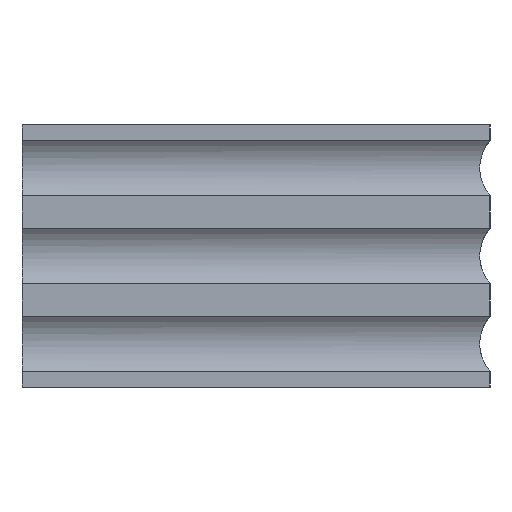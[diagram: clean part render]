
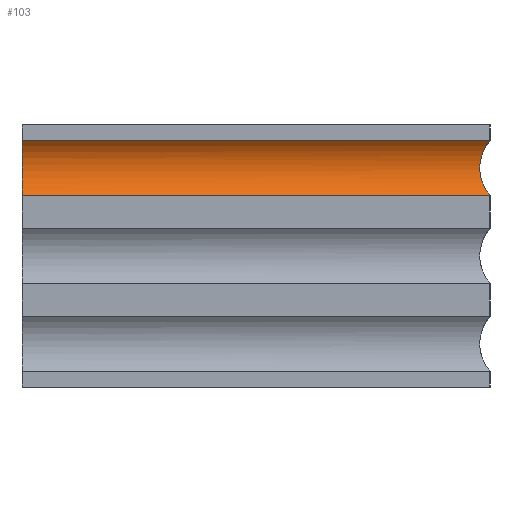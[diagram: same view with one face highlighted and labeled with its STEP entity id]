
A CAD part, left-side view. The second image highlights one B-rep face of the part: STEP entity #103.
In plain terms, the highlighted cylindrical face has radius 2.681 mm (diameter 5.362 mm), a partial arc.
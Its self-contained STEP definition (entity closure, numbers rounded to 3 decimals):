
#103 = ADVANCED_FACE( '', ( #212 ), #213, .F. );
#212 = FACE_OUTER_BOUND( '', #326, .T. );
#213 = CYLINDRICAL_SURFACE( '', #327, 2.681 );
#326 = EDGE_LOOP( '', ( #489, #490, #491, #492 ) );
#327 = AXIS2_PLACEMENT_3D( '', #493, #494, #495 );
#489 = ORIENTED_EDGE( '', *, *, #716, .F. );
#490 = ORIENTED_EDGE( '', *, *, #717, .T. );
#491 = ORIENTED_EDGE( '', *, *, #718, .T. );
#492 = ORIENTED_EDGE( '', *, *, #719, .F. );
#493 = CARTESIAN_POINT( '', ( -7.181, -29.8, 5.6 ) );
#494 = DIRECTION( '', ( 0., -1., 0. ) );
#495 = DIRECTION( '', ( 0., 0., 1. ) );
#716 = EDGE_CURVE( '', #855, #842, #856, .T. );
#717 = EDGE_CURVE( '', #855, #857, #858, .T. );
#718 = EDGE_CURVE( '', #857, #859, #860, .T. );
#719 = EDGE_CURVE( '', #842, #859, #861, .T. );
#842 = VERTEX_POINT( '', #1031 );
#855 = VERTEX_POINT( '', #1048 );
#856 = ELLIPSE( '', #1049, 3.792, 2.681 );
#857 = VERTEX_POINT( '', #1050 );
#858 = LINE( '', #1051, #1052 );
#859 = VERTEX_POINT( '', #1053 );
#860 = CIRCLE( '', #1054, 2.681 );
#861 = LINE( '', #1055, #1056 );
#1031 = CARTESIAN_POINT( '', ( -5.15, -29.8, 3.85 ) );
#1048 = CARTESIAN_POINT( '', ( -5.15, -29.8, 7.35 ) );
#1049 = AXIS2_PLACEMENT_3D( '', #1208, #1209, #1210 );
#1050 = CARTESIAN_POINT( '', ( -5.15, 0., 7.35 ) );
#1051 = CARTESIAN_POINT( '', ( -5.15, -29.8, 7.35 ) );
#1052 = VECTOR( '', #1211, 1000. );
#1053 = CARTESIAN_POINT( '', ( -5.15, 0., 3.85 ) );
#1054 = AXIS2_PLACEMENT_3D( '', #1212, #1213, #1214 );
#1055 = CARTESIAN_POINT( '', ( -5.15, -29.8, 3.85 ) );
#1056 = VECTOR( '', #1215, 1000. );
#1208 = CARTESIAN_POINT( '', ( -7.181, -31.831, 5.6 ) );
#1209 = DIRECTION( '', ( -0.707, 0.707, 0. ) );
#1210 = DIRECTION( '', ( 0.707, 0.707, 0. ) );
#1211 = DIRECTION( '', ( 0., 1., 0. ) );
#1212 = CARTESIAN_POINT( '', ( -7.181, 0., 5.6 ) );
#1213 = DIRECTION( '', ( 0., 1., 0. ) );
#1214 = DIRECTION( '', ( 1., 0., 0. ) );
#1215 = DIRECTION( '', ( 0., 1., 0. ) );
